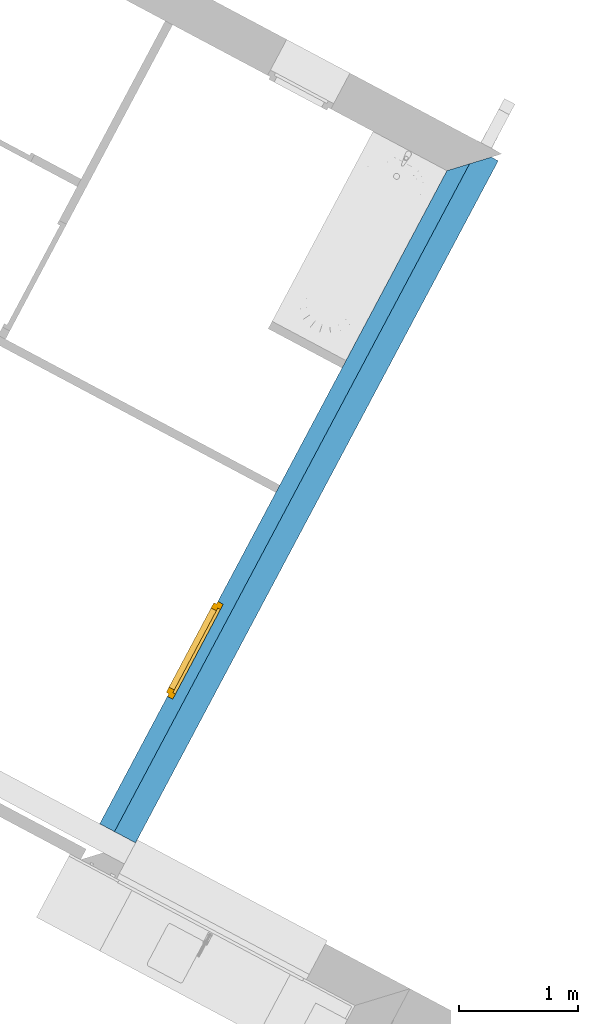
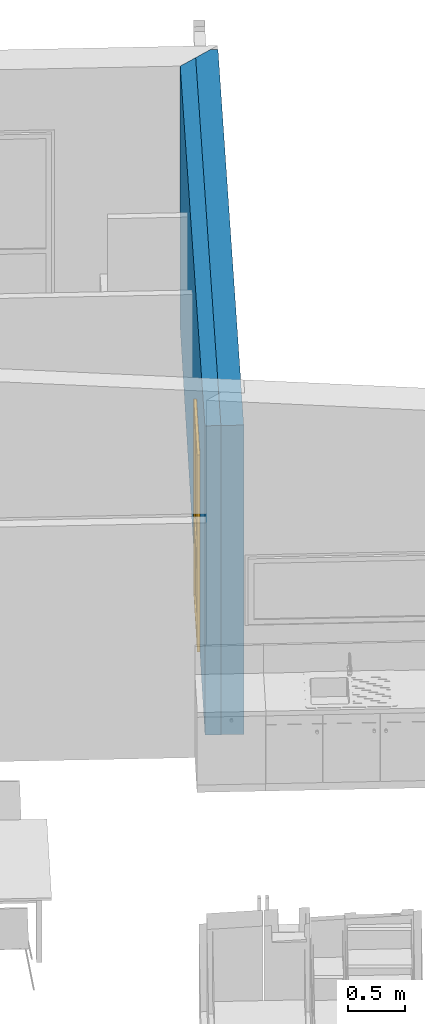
# One storey, part 15 of 27: 2 building element parts, 1 window, 1 opening, 1 element without a shape of its own.
"""IFC2X3 building model written with IfcOpenShell, lengths in metres."""

from ifc_helpers import new_model, entity, si_unit, converted_unit, derived_unit, money_unit, direction, frame, origin_with_axes, origin_2d_with_axis, place, context, subcontext, project, spatial, polyline, rectangle, outline, extrude, boolean, clip, bounded_halfspace, open_shell, faceted_brep, surface_model, material, type_object, element, fill, aggregate, save


model = new_model("IFC2X3")

# Units and contexts
model_context = context("Model", 3, precision=1e-05, world=origin_with_axes(), true_north=direction((0.0, 1.0)))
body_context = subcontext(model_context, "Body", "Model", "MODEL_VIEW")
ifc_project = project(units=[si_unit("LENGTHUNIT", "METRE"), si_unit("AREAUNIT", "SQUARE_METRE"), si_unit("VOLUMEUNIT", "CUBIC_METRE"), converted_unit("PLANEANGLEUNIT", "DEGREE", entity("IfcPlaneAngleMeasure", 0.0174532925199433), si_unit("PLANEANGLEUNIT", "RADIAN"), dimensions=[0, 0, 0, 0, 0, 0, 0]), money_unit("CHF"), converted_unit("TIMEUNIT", "Year", entity("IfcTimeMeasure", 31557600.0), si_unit("TIMEUNIT", "SECOND"), dimensions=[0, 0, 1, 0, 0, 0, 0]), si_unit("MASSUNIT", "GRAM", prefix="KILO"), si_unit("THERMODYNAMICTEMPERATUREUNIT", "DEGREE_CELSIUS"), si_unit("LUMINOUSINTENSITYUNIT", "LUMEN"), si_unit("ENERGYUNIT", "JOULE", prefix="MEGA"), derived_unit("THERMALCONDUCTANCEUNIT", [(si_unit("POWERUNIT", "WATT"), 1), (si_unit("LENGTHUNIT", "METRE"), -1), (si_unit("THERMODYNAMICTEMPERATUREUNIT", "KELVIN"), -1)]), derived_unit("SPECIFICHEATCAPACITYUNIT", [(si_unit("ENERGYUNIT", "JOULE"), 1), (si_unit("MASSUNIT", "GRAM", prefix="KILO"), -1), (si_unit("THERMODYNAMICTEMPERATUREUNIT", "KELVIN"), -1)]), derived_unit("MASSDENSITYUNIT", [(si_unit("MASSUNIT", "GRAM", prefix="KILO"), 1), (si_unit("VOLUMEUNIT", "CUBIC_METRE"), -1)])], contexts=[model_context])

# Site, building, storey
site_placement = place(None, frame((0.0, 0.0, 0.0), z_axis=(0.0, 0.0, 1.0), x_axis=(-0.4694715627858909, -0.8829475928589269, 0.0)))
site = spatial("IfcSite", under=ifc_project, at=site_placement, Name="Site", CompositionType="ELEMENT")
building_placement = place(site_placement, origin_with_axes())
building = spatial("IfcBuilding", under=site, at=building_placement, Name="Bâtiment", CompositionType="ELEMENT")
storey_placement = place(building_placement, origin_with_axes())
storey = spatial("IfcBuildingStorey", under=building, at=storey_placement, Name="RDC", CompositionType="ELEMENT", Elevation=0.0)

# Window
window_style = type_object("IfcWindowStyle", Name="Fen à carreaux 10", ConstructionType="NOTDEFINED", OperationType="SINGLE_PANEL", ParameterTakesPrecedence=False, Sizeable=False)
wall_placement = place(storey_placement, frame((133.6895710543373, -831.29459910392, 0.0), z_axis=(0.0, 0.0, 1.0), x_axis=(-1.0, 0.0, 0.0)))
opening_placement = place(wall_placement, frame((1.657063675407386, 0.0, 0.0), z_axis=(0.0, 0.0, 1.0), x_axis=(1.0, 0.0, 0.0)))
window_placement = place(opening_placement, frame((0.4499999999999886, 0.0, 0.0), z_axis=(0.0, 0.0, 1.0), x_axis=(-1.0, 0.0, 0.0)))
window = element("IfcWindow", 1, at=window_placement, inside=storey, type_object=window_style, Name="Fen-156", OverallHeight=2.15, OverallWidth=0.9, context=body_context, shape_type="SurfaceModel", body=[
    faceted_brep([(0.0, -0.3399999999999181, 2.1), (0.02499999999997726, -0.3399999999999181, 2.1), (0.02499999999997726, -0.3149999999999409, 2.1), (0.04999999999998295, -0.3149999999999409, 2.1), (0.04999999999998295, -0.2899999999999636, 2.1), (0.0, -0.2899999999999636, 2.1), (0.0, -0.3399999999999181, 0.05000000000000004), (0.02499999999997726, -0.3399999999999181, 0.05000000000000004), (0.02499999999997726, -0.3149999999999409, 0.05000000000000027), (0.04999999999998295, -0.3149999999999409, 0.05000000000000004), (0.04999999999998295, -0.2899999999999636, 0.05000000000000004), (0.0, -0.2899999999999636, 0.05000000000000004)], [[[0, 1, 2, 3, 4, 5]], [[6, 7, 1, 0]], [[8, 2, 1, 7]], [[8, 9, 3, 2]], [[4, 3, 9, 10]], [[5, 4, 10, 11]], [[6, 0, 5, 11]], [[9, 8, 7, 6, 11, 10]]]),
    faceted_brep([(0.8499999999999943, -0.2899999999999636, 2.1), (0.8499999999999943, -0.3149999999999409, 2.1), (0.875, -0.3149999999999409, 2.1), (0.875, -0.3399999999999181, 2.1), (0.8999999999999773, -0.3399999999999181, 2.1), (0.8999999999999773, -0.2899999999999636, 2.1), (0.8499999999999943, -0.2899999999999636, 0.05000000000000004), (0.8499999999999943, -0.3149999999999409, 0.05000000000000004), (0.875, -0.3149999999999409, 0.05000000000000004), (0.875, -0.3399999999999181, 0.05000000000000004), (0.8999999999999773, -0.3399999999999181, 0.05000000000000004), (0.8999999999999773, -0.2899999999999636, 0.05000000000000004)], [[[0, 1, 2, 3, 4, 5]], [[6, 7, 1, 0]], [[8, 2, 1, 7]], [[8, 9, 3, 2]], [[4, 3, 9, 10]], [[4, 10, 11, 5]], [[0, 5, 11, 6]], [[9, 8, 7, 6, 11, 10]]]),
    faceted_brep([(0.0, -0.3399999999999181, 2.1), (0.02499999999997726, -0.3399999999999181, 2.1), (0.02499999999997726, -0.3399999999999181, 2.125), (0.875, -0.3399999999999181, 2.125), (0.875, -0.3399999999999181, 2.1), (0.8999999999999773, -0.3399999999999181, 2.1), (0.8999999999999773, -0.3399999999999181, 2.15), (0.0, -0.3399999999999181, 2.15), (0.04999999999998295, -0.3149999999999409, 2.1), (0.02499999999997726, -0.3149999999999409, 2.1), (0.0, -0.2899999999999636, 2.1), (0.04999999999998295, -0.2899999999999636, 2.1), (0.02499999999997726, -0.3149999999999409, 2.125), (0.875, -0.3149999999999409, 2.125), (0.875, -0.3149999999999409, 2.1), (0.8499999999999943, -0.3149999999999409, 2.1), (0.8499999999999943, -0.2899999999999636, 2.1), (0.8999999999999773, -0.2899999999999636, 2.1), (0.8999999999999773, -0.2899999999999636, 2.15), (0.0, -0.2899999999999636, 2.15)], [[[0, 1, 2, 3, 4, 5, 6, 7]], [[8, 9, 1, 0, 10, 11]], [[12, 2, 1, 9]], [[13, 3, 2, 12]], [[14, 4, 3, 13]], [[4, 14, 15, 16, 17, 5]], [[6, 5, 17, 18]], [[7, 6, 18, 19]], [[0, 7, 19, 10]], [[8, 15, 14, 13, 12, 9]], [[16, 11, 10, 19, 18, 17]], [[16, 15, 8, 11]]]),
    faceted_brep([(0.8499999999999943, -0.2899999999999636, 0.05000000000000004), (0.8499999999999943, -0.3149999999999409, 0.05000000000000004), (0.875, -0.3149999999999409, 0.05000000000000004), (0.875, -0.3399999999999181, 0.05000000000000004), (0.8999999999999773, -0.3399999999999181, 0.05000000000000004), (0.8999999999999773, -0.2899999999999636, 0.05000000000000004), (0.04999999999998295, -0.2899999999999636, 0.05000000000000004), (0.04999999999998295, -0.3149999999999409, 0.05000000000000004), (0.875, -0.3149999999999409, 0.02499999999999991), (0.02499999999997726, -0.3149999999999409, 0.05000000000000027), (0.02499999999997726, -0.3149999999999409, 0.02499999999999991), (0.875, -0.3399999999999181, 0.02499999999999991), (0.02499999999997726, -0.3399999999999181, 0.02499999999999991), (0.02499999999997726, -0.3399999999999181, 0.05000000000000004), (0.0, -0.3399999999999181, 0.05000000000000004), (0.0, -0.3399999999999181, 0.0), (0.8999999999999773, -0.3399999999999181, 0.0), (0.8999999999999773, -0.2899999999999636, 0.0), (0.0, -0.2899999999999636, 0.0), (0.0, -0.2899999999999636, 0.05000000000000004)], [[[0, 1, 2, 3, 4, 5]], [[6, 7, 1, 0]], [[8, 2, 1, 7, 9, 10]], [[8, 11, 3, 2]], [[11, 12, 13, 14, 15, 16, 4, 3]], [[4, 16, 17, 5]], [[5, 17, 18, 19, 6, 0]], [[13, 9, 7, 6, 19, 14]], [[10, 9, 13, 12]], [[10, 12, 11, 8]], [[15, 14, 19, 18]], [[16, 15, 18, 17]]]),
    surface_model("IfcShellBasedSurfaceModel", [(0.07499999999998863, -0.3299999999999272, 0.07499999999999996), (0.07499999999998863, -0.3299999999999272, 0.8500000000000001), (0.8249999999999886, -0.3299999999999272, 0.8500000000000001), (0.8249999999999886, -0.3299999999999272, 0.07499999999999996)], [open_shell([[[0, 1, 2, 3]]])]),
    surface_model("IfcShellBasedSurfaceModel", [(0.07499999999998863, -0.3499999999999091, 0.07499999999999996), (0.8249999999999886, -0.3499999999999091, 0.07499999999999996), (0.8249999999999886, -0.3499999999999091, 0.8500000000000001), (0.07499999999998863, -0.3499999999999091, 0.8500000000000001)], [open_shell([[[0, 1, 2, 3]]])]),
    surface_model("IfcShellBasedSurfaceModel", [(0.07499999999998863, -0.3299999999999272, 0.9), (0.07499999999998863, -0.3299999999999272, 2.075), (0.8249999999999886, -0.3299999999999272, 2.075), (0.8249999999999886, -0.3299999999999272, 0.9)], [open_shell([[[0, 1, 2, 3]]])]),
    surface_model("IfcShellBasedSurfaceModel", [(0.07499999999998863, -0.3499999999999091, 0.9), (0.8249999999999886, -0.3499999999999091, 0.9), (0.8249999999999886, -0.3499999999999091, 2.075), (0.07499999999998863, -0.3499999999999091, 2.075)], [open_shell([[[0, 1, 2, 3]]])]),
    faceted_brep([(0.07499999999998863, -0.3650000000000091, 0.07499999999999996), (0.07499999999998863, -0.3149999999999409, 0.07499999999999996), (0.07499999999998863, -0.3149999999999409, 2.075), (0.07499999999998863, -0.3650000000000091, 2.075), (0.02499999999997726, -0.3650000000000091, 0.07499999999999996), (0.02499999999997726, -0.3149999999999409, 0.07499999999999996), (0.02499999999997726, -0.3149999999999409, 2.075), (0.02499999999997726, -0.3650000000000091, 2.075)], [[[0, 1, 2, 3]], [[4, 5, 1, 0]], [[2, 1, 5, 6]], [[3, 2, 6, 7]], [[4, 0, 3, 7]], [[7, 6, 5, 4]]]),
    faceted_brep([(0.875, -0.3650000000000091, 0.07499999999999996), (0.875, -0.3149999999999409, 0.07499999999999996), (0.875, -0.3149999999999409, 2.075), (0.875, -0.3650000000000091, 2.075), (0.8249999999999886, -0.3650000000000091, 0.07499999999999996), (0.8249999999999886, -0.3149999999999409, 0.07499999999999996), (0.8249999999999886, -0.3149999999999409, 2.075), (0.8249999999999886, -0.3650000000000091, 2.075)], [[[0, 1, 2, 3]], [[4, 5, 1, 0]], [[2, 1, 5, 6]], [[3, 2, 6, 7]], [[4, 0, 3, 7]], [[7, 6, 5, 4]]]),
    faceted_brep([(0.02499999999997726, -0.3650000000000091, 2.075), (0.02499999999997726, -0.3149999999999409, 2.075), (0.07499999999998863, -0.3149999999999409, 2.075), (0.07499999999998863, -0.3650000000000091, 2.075), (0.02499999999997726, -0.3650000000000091, 2.125), (0.02499999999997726, -0.3149999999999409, 2.125), (0.875, -0.3149999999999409, 2.125), (0.875, -0.3149999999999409, 2.075), (0.8249999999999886, -0.3149999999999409, 2.075), (0.8249999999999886, -0.3650000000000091, 2.075), (0.875, -0.3650000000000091, 2.075), (0.875, -0.3650000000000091, 2.125)], [[[0, 1, 2, 3]], [[4, 5, 1, 0]], [[2, 1, 5, 6, 7, 8]], [[3, 2, 8, 9]], [[4, 0, 3, 9, 10, 11]], [[11, 6, 5, 4]], [[10, 7, 6, 11]], [[9, 8, 7, 10]]]),
    faceted_brep([(0.07499999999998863, -0.3650000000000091, 0.9), (0.07499999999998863, -0.3149999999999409, 0.9), (0.07499999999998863, -0.3149999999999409, 0.85), (0.07499999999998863, -0.3650000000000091, 0.85), (0.8249999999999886, -0.3650000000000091, 0.9), (0.8249999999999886, -0.3149999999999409, 0.9), (0.8249999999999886, -0.3149999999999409, 0.85), (0.8249999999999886, -0.3650000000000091, 0.85)], [[[0, 1, 2, 3]], [[4, 5, 1, 0]], [[2, 1, 5, 6]], [[3, 2, 6, 7]], [[4, 0, 3, 7]], [[7, 6, 5, 4]]]),
    faceted_brep([(0.02499999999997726, -0.3650000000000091, 0.02499999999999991), (0.02499999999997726, -0.3149999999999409, 0.02499999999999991), (0.875, -0.3149999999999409, 0.02499999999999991), (0.875, -0.3650000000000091, 0.02499999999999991), (0.02499999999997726, -0.3650000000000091, 0.07499999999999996), (0.02499999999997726, -0.3149999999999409, 0.07499999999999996), (0.07499999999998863, -0.3149999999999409, 0.07499999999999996), (0.8249999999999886, -0.3149999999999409, 0.07499999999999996), (0.875, -0.3149999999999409, 0.07499999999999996), (0.875, -0.3650000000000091, 0.07499999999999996), (0.8249999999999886, -0.3650000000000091, 0.07499999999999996), (0.07499999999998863, -0.3650000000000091, 0.07499999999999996)], [[[0, 1, 2, 3]], [[4, 5, 1, 0]], [[2, 1, 5, 6, 7, 8]], [[3, 2, 8, 9]], [[4, 0, 3, 9, 10, 11]], [[11, 6, 5, 4]], [[10, 7, 6, 11]], [[9, 8, 7, 10]]]),
])

# Wall, opening
wall_type = type_object("IfcWallType", Name="MUR EXT 34 0024849982 340", PredefinedType="NOTDEFINED")
wall = element("IfcWall", 2, at=wall_placement, inside=storey, type_object=wall_type, Name="Mur-393")
opening = element("IfcOpeningElement", 3, at=opening_placement, cuts=wall, Name="Fen-156", context=body_context, shape_type="SweptSolid", body=[
    extrude(rectangle(XDim=0.8999999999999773, YDim=2.15, at=origin_2d_with_axis()), frame((0.0, -0.3400000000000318, 1.075), z_axis=(0.0, 1.0, 0.0), x_axis=(-1.0, 0.0, 0.0)), (0.0, 0.0, 1.0), 1.02),
])

fill(opening, window)

# Building element part
ifc_material_1 = material(Name="Isolation 272048125")
building_element_part_1_placement = place(wall_placement, origin_with_axes())
building_element_part_1 = element("IfcBuildingElementPart", 4, at=building_element_part_1_placement, material=ifc_material_1, Name="Isolation 272048125", context=body_context, shape_type="CSG", body=[
    boolean("DIFFERENCE", boolean("DIFFERENCE", boolean("DIFFERENCE", boolean("DIFFERENCE", clip(extrude(outline(polyline([(-0.3400000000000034, 0.2000000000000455), (6.530000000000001, 0.2000000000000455), (6.530000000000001, 0.3400000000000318), (-0.3400000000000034, 0.3400000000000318), (-0.3400000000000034, 0.2000000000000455)])), origin_with_axes(), (0.0, 0.0, 1.0), 3.5), bounded_halfspace(frame((0.2620940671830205, 0.0, 3.276175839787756), z_axis=(-0.07974522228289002, 0.0, -0.9968152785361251), x_axis=(0.0, 1.0, 0.0)), True, origin_with_axes(), polyline([(0.0, -0.01), (6.830037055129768, -0.01), (6.830037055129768, 0.3500000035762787), (0.0, 0.3500000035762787), (0.0, -0.01)]))), faceted_brep([(6.189999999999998, 0.3400000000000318, 0.0), (6.189999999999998, 0.3400000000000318, 2.801943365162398), (6.530000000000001, 0.3400000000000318, 2.774743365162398), (6.530000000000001, 0.3400000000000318, 0.0), (6.329999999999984, 0.2000000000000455, 2.790743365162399), (6.329999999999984, 0.2000000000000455, 0.0), (6.530000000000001, 0.2000000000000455, 2.774743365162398), (6.530000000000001, 0.2000000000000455, 0.0)], [[[0, 1, 2, 3]], [[4, 1, 0, 5]], [[1, 4, 6, 2]], [[3, 2, 6, 7]], [[5, 0, 3, 7]], [[4, 5, 7, 6]]])), faceted_brep([(0.0, 0.2000000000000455, 0.0), (0.0, 0.2000000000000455, 3.297143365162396), (0.0, 0.2000000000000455, 3.5), (-0.3400000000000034, 0.2000000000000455, 3.5), (-0.3400000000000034, 0.2000000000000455, 0.0), (0.0, 0.3400000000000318, 0.0), (0.0, 0.3400000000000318, 3.297143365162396), (0.0, 0.3400000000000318, 3.5), (-0.3400000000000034, 0.3400000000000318, 3.5), (-0.3400000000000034, 0.3400000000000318, 0.0)], [[[0, 1, 2, 3, 4]], [[1, 0, 5, 6, 7, 2]], [[3, 2, 7, 8]], [[3, 8, 9, 4]], [[5, 0, 4, 9]], [[6, 5, 9, 8, 7]]])), faceted_brep([(6.329999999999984, 0.2000000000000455, 0.0), (6.329999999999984, 0.2000000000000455, 2.790743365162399), (6.530000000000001, 0.2000000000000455, 2.774743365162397), (6.530000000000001, 0.2000000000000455, 0.0), (6.464292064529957, 0.0657079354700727, 2.780000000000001), (6.464292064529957, 0.0657079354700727, 0.0), (6.464292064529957, 0.0, 2.780000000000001), (6.530000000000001, 0.0, 2.774743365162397), (6.530000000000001, 0.0, 0.0), (6.464292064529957, 0.0, 0.0)], [[[0, 1, 2, 3]], [[4, 1, 0, 5]], [[4, 6, 7, 2, 1]], [[3, 2, 7, 8]], [[5, 0, 3, 8, 9]], [[9, 6, 4, 5]], [[6, 9, 8, 7]]])), faceted_brep([(0.0, 0.0, 0.0), (0.0, 0.0, 3.297143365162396), (0.0, 0.0, 3.5), (-0.3400000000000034, 0.0, 3.5), (-0.3400000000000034, 0.0, 0.0), (0.0, 0.2000000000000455, 0.0), (0.0, 0.2000000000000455, 3.297143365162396), (0.0, 0.2000000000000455, 3.5), (-0.3400000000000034, 0.2000000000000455, 3.5), (-0.3400000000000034, 0.2000000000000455, 0.0)], [[[0, 1, 2, 3, 4]], [[1, 0, 5, 6, 7, 2]], [[3, 2, 7, 8]], [[3, 8, 9, 4]], [[5, 0, 4, 9]], [[6, 5, 9, 8, 7]]])),
])

ifc_material_2 = material(Name="Maçonnerie 290464332")
building_element_part_2_placement = place(wall_placement, origin_with_axes())
building_element_part_2 = element("IfcBuildingElementPart", 5, at=building_element_part_2_placement, material=ifc_material_2, Name="Maçonnerie 290464332", context=body_context, shape_type="CSG", body=[
    boolean("DIFFERENCE", boolean("DIFFERENCE", boolean("DIFFERENCE", boolean("DIFFERENCE", clip(extrude(outline(polyline([(-0.3400000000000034, 0.0), (6.530000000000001, 0.0), (6.530000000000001, 0.2000000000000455), (-0.3400000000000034, 0.2000000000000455), (-0.3400000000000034, 0.0)])), origin_with_axes(), (0.0, 0.0, 1.0), 3.5), bounded_halfspace(frame((0.2620940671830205, 0.0, 3.276175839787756), z_axis=(-0.07974522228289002, 0.0, -0.9968152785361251), x_axis=(0.0, 1.0, 0.0)), True, origin_with_axes(), polyline([(0.0, -0.01), (6.830037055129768, -0.01), (6.830037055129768, 0.3500000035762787), (0.0, 0.3500000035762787), (0.0, -0.01)]))), faceted_brep([(6.189999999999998, 0.3400000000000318, 0.0), (6.189999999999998, 0.3400000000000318, 2.801943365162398), (6.530000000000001, 0.3400000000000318, 2.774743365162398), (6.530000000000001, 0.3400000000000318, 0.0), (6.329999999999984, 0.2000000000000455, 2.790743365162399), (6.329999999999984, 0.2000000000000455, 0.0), (6.530000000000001, 0.2000000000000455, 2.774743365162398), (6.530000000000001, 0.2000000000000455, 0.0)], [[[0, 1, 2, 3]], [[4, 1, 0, 5]], [[1, 4, 6, 2]], [[3, 2, 6, 7]], [[5, 0, 3, 7]], [[4, 5, 7, 6]]])), faceted_brep([(0.0, 0.2000000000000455, 0.0), (0.0, 0.2000000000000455, 3.297143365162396), (0.0, 0.2000000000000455, 3.5), (-0.3400000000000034, 0.2000000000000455, 3.5), (-0.3400000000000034, 0.2000000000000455, 0.0), (0.0, 0.3400000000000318, 0.0), (0.0, 0.3400000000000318, 3.297143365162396), (0.0, 0.3400000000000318, 3.5), (-0.3400000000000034, 0.3400000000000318, 3.5), (-0.3400000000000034, 0.3400000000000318, 0.0)], [[[0, 1, 2, 3, 4]], [[1, 0, 5, 6, 7, 2]], [[3, 2, 7, 8]], [[3, 8, 9, 4]], [[5, 0, 4, 9]], [[6, 5, 9, 8, 7]]])), faceted_brep([(6.329999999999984, 0.2000000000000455, 0.0), (6.329999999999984, 0.2000000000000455, 2.790743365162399), (6.530000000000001, 0.2000000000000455, 2.774743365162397), (6.530000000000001, 0.2000000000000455, 0.0), (6.464292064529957, 0.0657079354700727, 2.780000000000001), (6.464292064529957, 0.0657079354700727, 0.0), (6.464292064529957, 0.0, 2.780000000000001), (6.530000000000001, 0.0, 2.774743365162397), (6.530000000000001, 0.0, 0.0), (6.464292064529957, 0.0, 0.0)], [[[0, 1, 2, 3]], [[4, 1, 0, 5]], [[4, 6, 7, 2, 1]], [[3, 2, 7, 8]], [[5, 0, 3, 8, 9]], [[9, 6, 4, 5]], [[6, 9, 8, 7]]])), faceted_brep([(0.0, 0.0, 0.0), (0.0, 0.0, 3.297143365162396), (0.0, 0.0, 3.5), (-0.3400000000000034, 0.0, 3.5), (-0.3400000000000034, 0.0, 0.0), (0.0, 0.2000000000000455, 0.0), (0.0, 0.2000000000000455, 3.297143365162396), (0.0, 0.2000000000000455, 3.5), (-0.3400000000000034, 0.2000000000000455, 3.5), (-0.3400000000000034, 0.2000000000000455, 0.0)], [[[0, 1, 2, 3, 4]], [[1, 0, 5, 6, 7, 2]], [[3, 2, 7, 8]], [[3, 8, 9, 4]], [[5, 0, 4, 9]], [[6, 5, 9, 8, 7]]])),
])

aggregate(wall, [building_element_part_1, building_element_part_2])

save(model, "model.ifc")
